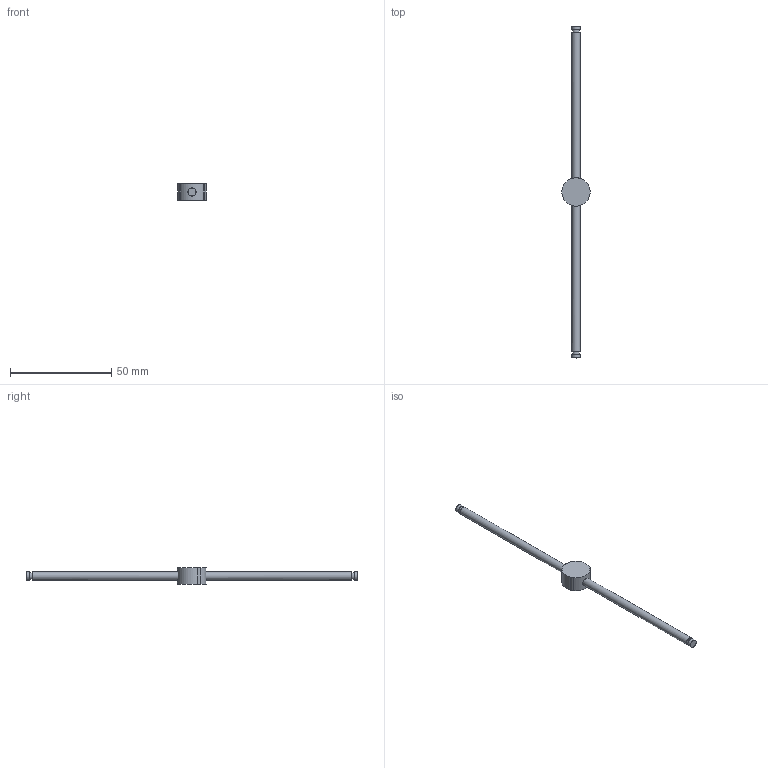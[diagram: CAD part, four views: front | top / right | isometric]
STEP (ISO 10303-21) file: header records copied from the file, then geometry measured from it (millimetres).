
FILE_DESCRIPTION(('Open CASCADE Model'),'2;1');
FILE_NAME('SCZ-SHB','2026-11-15T22:39:10',('Author'),('Open CASCADE'), 'Open CASCADE STEP processor 8.0','build123d','Unknown');
FILE_SCHEMA(('AUTOMOTIVE_DESIGN { 1 0 10303 214 1 1 1 1 }'));
Length unit declared in the file: millimetre
Products named in the file (1): SCZ-SHB
Bounding box: 13.96 x 164 x 8 mm (x, y, z)
Volume: 3113.8 mm3; surface area: 2560.3 mm2
Topology: 1 solids, 1 shells, 21 faces, 42 edges, 28 vertices
Faces by surface type: cylinder 13, plane 8
Full cylindrical faces by diameter (mm): 3.4 x2, 4 x4
Entity records: 1759 total; most frequent: CARTESIAN_POINT 898, DIRECTION 155, ORIENTED_EDGE 84, PCURVE 84, DEFINITIONAL_REPRESENTATION 84, LINE 48, VECTOR 48, AXIS2_PLACEMENT_3D 44
